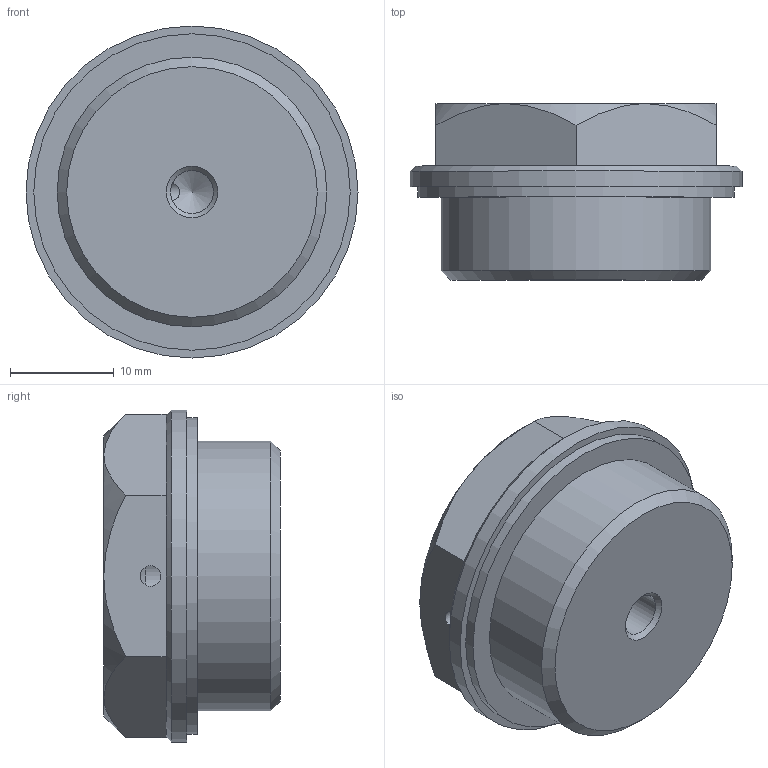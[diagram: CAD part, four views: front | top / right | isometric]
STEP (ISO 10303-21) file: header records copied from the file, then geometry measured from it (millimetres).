
FILE_DESCRIPTION( ( 'STEP AP203' ), '1' );
FILE_NAME( 'C:/Temp/Ganter_Step_05_03_2020/data/3_5/gn742/gn742_2/Threaded plug GN 742-32-M26x1,5-ASS-2.stp', '2020-03-12T13:39:27', ( 'License CC BY-ND 4.0' ), ( 'CADENAS' ), ' ', 'PARTsolutions', ' ' );
FILE_SCHEMA( ( 'CONFIG_CONTROL_DESIGN' ) );
Length unit declared in the file: millimetre
Products named in the file (1): _Threaded plug GN 742-32-M26x1,5-ASS-2
Bounding box: 32 x 17 x 32 mm (x, y, z)
Volume: 10072.1 mm3; surface area: 3239.7 mm2
Topology: 1 solids, 1 shells, 64 faces, 155 edges, 96 vertices
Faces by surface type: plane 49, cone 10, cylinder 5
Full cylindrical faces by diameter (mm): 2 x1, 4.134 x1, 26 x1, 30.5 x1, 32 x1
Entity records: 1901 total; most frequent: CARTESIAN_POINT 426, DIRECTION 287, ORIENTED_EDGE 284, EDGE_CURVE 142, LINE 99, VECTOR 99, AXIS2_PLACEMENT_3D 94, VERTEX_POINT 93
